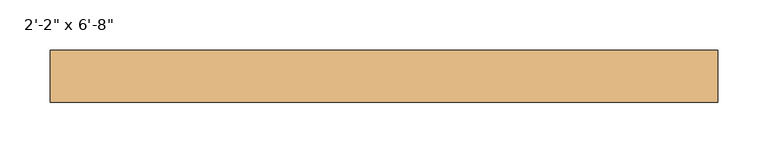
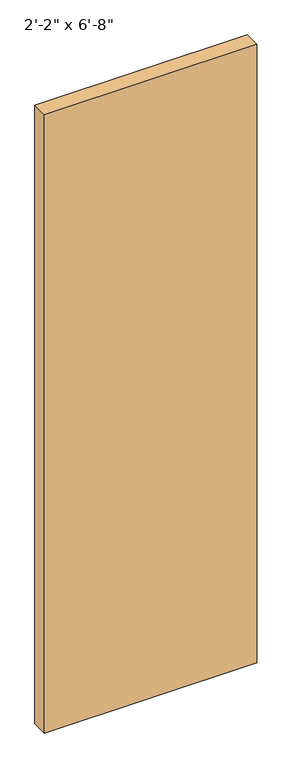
"""IFC4 building model written with IfcOpenShell, lengths in millimetres: door geometry."""

from ifc_helpers import new_model, si_unit, origin, origin_with_axes, place, context, project, spatial, polyline, outline, extrude, source, transform, mapped, element, save


def door_72e7b4df(model_context):
    return source(origin(), model_context, "Body", "SweptSolid", [
        extrude(outline(polyline([(330.2, -6.1515625), (330.2, -57.15), (-330.2, -57.15), (-330.2, -6.1515625), (330.2, -6.1515625)])), origin_with_axes(), (0.0, 0.0, 1.0), 2032.0),
    ])


if __name__ == "__main__":
    model = new_model("IFC4")
    model_context = context("Model", 3, world=origin())
    ifc_project = project(units=[si_unit("LENGTHUNIT", "METRE", prefix="MILLI")], contexts=[model_context])
    site = spatial("IfcSite", under=ifc_project)
    building = spatial("IfcBuilding", under=site)
    placement = place(None, origin())
    door_shape = door_72e7b4df(model_context)
    element("IfcDoor", 1, ObjectType="Planitar - Single Door_Flush Panel : 2'-2\" x 6'-8\"", at=placement, inside=building, context=model_context, shape_type="MappedRepresentation", body=[
        mapped(door_shape, transform((0.0, 0.0, 0.0), x_axis=(1.0, 0.0, 0.0), y_axis=(0.0, 1.0, 0.0), z_axis=(0.0, 0.0, 1.0))),
    ])
    save(model, "model.ifc")
